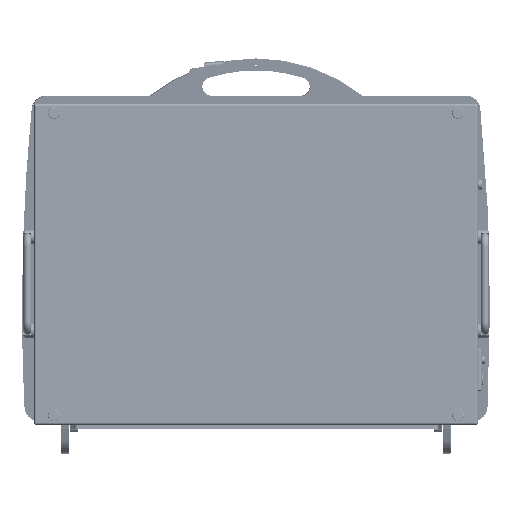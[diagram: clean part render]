
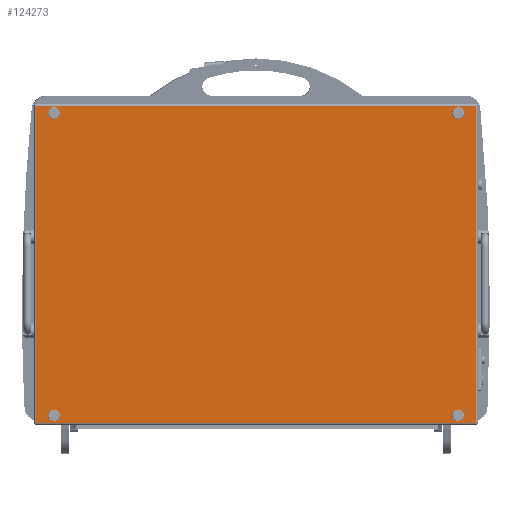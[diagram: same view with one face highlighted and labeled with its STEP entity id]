
A CAD part, front view. The second image highlights one B-rep face of the part: STEP entity #124273.
In plain terms, the highlighted planar face has unit normal (0, -1, 0).
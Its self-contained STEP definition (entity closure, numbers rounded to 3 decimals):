
#935 = EDGE_CURVE ( 'NONE', #166190, #113517, #93261, .T. ) ;
#3683 = CARTESIAN_POINT ( 'NONE',  ( 258., 0., 193. ) ) ;
#4519 = VECTOR ( 'NONE', #102255, 1000. ) ;
#5609 = DIRECTION ( 'NONE',  ( 0., -1., 0. ) ) ;
#6055 = FACE_OUTER_BOUND ( 'NONE', #108372, .T. ) ;
#6223 = DIRECTION ( 'NONE',  ( 0., -1., 0. ) ) ;
#8427 = AXIS2_PLACEMENT_3D ( 'NONE', #62803, #83822, #17658 ) ;
#8516 = LINE ( 'NONE', #51992, #110378 ) ;
#9313 = CARTESIAN_POINT ( 'NONE',  ( 283., 0., -202. ) ) ;
#10239 = FACE_BOUND ( 'NONE', #72814, .T. ) ;
#12534 = DIRECTION ( 'NONE',  ( 0., 0., 1. ) ) ;
#13189 = EDGE_LOOP ( 'NONE', ( #109390, #36816 ) ) ;
#15513 = VERTEX_POINT ( 'NONE', #54957 ) ;
#17658 = DIRECTION ( 'NONE',  ( 0., 0., -1. ) ) ;
#18623 = LINE ( 'NONE', #69015, #120470 ) ;
#19813 = CARTESIAN_POINT ( 'NONE',  ( -258., 0., -198.1 ) ) ;
#22093 = EDGE_CURVE ( 'NONE', #85048, #112947, #18623, .T. ) ;
#28248 = CARTESIAN_POINT ( 'NONE',  ( 258., 0., -193. ) ) ;
#28993 = VERTEX_POINT ( 'NONE', #131361 ) ;
#31338 = EDGE_LOOP ( 'NONE', ( #102181, #99248 ) ) ;
#35450 = ORIENTED_EDGE ( 'NONE', *, *, #136829, .F. ) ;
#36816 = ORIENTED_EDGE ( 'NONE', *, *, #51456, .F. ) ;
#37181 = DIRECTION ( 'NONE',  ( 0., 0., -1. ) ) ;
#37566 = DIRECTION ( 'NONE',  ( 0., -1., 0. ) ) ;
#38647 = CARTESIAN_POINT ( 'NONE',  ( 283., 0., 202. ) ) ;
#39827 = LINE ( 'NONE', #9313, #4519 ) ;
#40537 = VERTEX_POINT ( 'NONE', #81907 ) ;
#41364 = FACE_BOUND ( 'NONE', #31338, .T. ) ;
#41613 = DIRECTION ( 'NONE',  ( 0., 0., -1. ) ) ;
#42584 = ORIENTED_EDGE ( 'NONE', *, *, #56651, .F. ) ;
#43104 = CARTESIAN_POINT ( 'NONE',  ( -258., 0., 193. ) ) ;
#43661 = EDGE_CURVE ( 'NONE', #15513, #52342, #54225, .T. ) ;
#49384 = VERTEX_POINT ( 'NONE', #79385 ) ;
#49676 = ORIENTED_EDGE ( 'NONE', *, *, #132321, .F. ) ;
#51456 = EDGE_CURVE ( 'NONE', #28993, #145738, #130682, .T. ) ;
#51992 = CARTESIAN_POINT ( 'NONE',  ( 283., 0., 202. ) ) ;
#52342 = VERTEX_POINT ( 'NONE', #113492 ) ;
#54225 = CIRCLE ( 'NONE', #77631, 5.1 ) ;
#54957 = CARTESIAN_POINT ( 'NONE',  ( -258., 0., 198.1 ) ) ;
#56651 = EDGE_CURVE ( 'NONE', #52342, #15513, #114892, .T. ) ;
#59592 = ORIENTED_EDGE ( 'NONE', *, *, #43661, .F. ) ;
#62065 = DIRECTION ( 'NONE',  ( 0., -1., 0. ) ) ;
#62574 = AXIS2_PLACEMENT_3D ( 'NONE', #28248, #121242, #41613 ) ;
#62803 = CARTESIAN_POINT ( 'NONE',  ( -258., 0., -193. ) ) ;
#66027 = CIRCLE ( 'NONE', #62574, 5.1 ) ;
#69015 = CARTESIAN_POINT ( 'NONE',  ( -281., 0., 202. ) ) ;
#72260 = VECTOR ( 'NONE', #134341, 1000. ) ;
#72814 = EDGE_LOOP ( 'NONE', ( #35450, #89179 ) ) ;
#76406 = LINE ( 'NONE', #121532, #72260 ) ;
#76745 = FACE_BOUND ( 'NONE', #13189, .T. ) ;
#77404 = CARTESIAN_POINT ( 'NONE',  ( 258., 0., -193. ) ) ;
#77631 = AXIS2_PLACEMENT_3D ( 'NONE', #43104, #37566, #37181 ) ;
#78738 = PLANE ( 'NONE',  #131302 ) ;
#79385 = CARTESIAN_POINT ( 'NONE',  ( 258., 0., -198.1 ) ) ;
#81907 = CARTESIAN_POINT ( 'NONE',  ( 281., 0., -202. ) ) ;
#83400 = EDGE_CURVE ( 'NONE', #145738, #28993, #100784, .T. ) ;
#83822 = DIRECTION ( 'NONE',  ( 0., -1., 0. ) ) ;
#85048 = VERTEX_POINT ( 'NONE', #116460 ) ;
#85214 = CARTESIAN_POINT ( 'NONE',  ( -258., 0., -193. ) ) ;
#85827 = CARTESIAN_POINT ( 'NONE',  ( 258., 0., 193. ) ) ;
#85831 = AXIS2_PLACEMENT_3D ( 'NONE', #85214, #5609, #98562 ) ;
#87553 = ORIENTED_EDGE ( 'NONE', *, *, #22093, .T. ) ;
#88074 = AXIS2_PLACEMENT_3D ( 'NONE', #155055, #62065, #141709 ) ;
#89179 = ORIENTED_EDGE ( 'NONE', *, *, #107476, .F. ) ;
#90742 = DIRECTION ( 'NONE',  ( 0., 0., -1. ) ) ;
#92131 = DIRECTION ( 'NONE',  ( 0., 1., 0. ) ) ;
#93261 = CIRCLE ( 'NONE', #140481, 5.1 ) ;
#98562 = DIRECTION ( 'NONE',  ( 0., 0., -1. ) ) ;
#99024 = ORIENTED_EDGE ( 'NONE', *, *, #100180, .T. ) ;
#99181 = DIRECTION ( 'NONE',  ( 0., 0., -1. ) ) ;
#99248 = ORIENTED_EDGE ( 'NONE', *, *, #102469, .F. ) ;
#99615 = AXIS2_PLACEMENT_3D ( 'NONE', #77404, #170287, #90742 ) ;
#100180 = EDGE_CURVE ( 'NONE', #170942, #85048, #8516, .T. ) ;
#100784 = CIRCLE ( 'NONE', #85831, 5.1 ) ;
#102181 = ORIENTED_EDGE ( 'NONE', *, *, #935, .F. ) ;
#102255 = DIRECTION ( 'NONE',  ( -1., 0., 0. ) ) ;
#102469 = EDGE_CURVE ( 'NONE', #113517, #166190, #160324, .T. ) ;
#107476 = EDGE_CURVE ( 'NONE', #164716, #49384, #121744, .T. ) ;
#108372 = EDGE_LOOP ( 'NONE', ( #99024, #87553, #49676, #114394 ) ) ;
#109390 = ORIENTED_EDGE ( 'NONE', *, *, #83400, .F. ) ;
#110378 = VECTOR ( 'NONE', #118334, 1000. ) ;
#110802 = CARTESIAN_POINT ( 'NONE',  ( 258., 0., 198.1 ) ) ;
#112947 = VERTEX_POINT ( 'NONE', #126099 ) ;
#113492 = CARTESIAN_POINT ( 'NONE',  ( -258., 0., 187.9 ) ) ;
#113517 = VERTEX_POINT ( 'NONE', #110802 ) ;
#114394 = ORIENTED_EDGE ( 'NONE', *, *, #168864, .T. ) ;
#114817 = EDGE_LOOP ( 'NONE', ( #42584, #59592 ) ) ;
#114892 = CIRCLE ( 'NONE', #88074, 5.1 ) ;
#116460 = CARTESIAN_POINT ( 'NONE',  ( -281., 0., 202. ) ) ;
#118214 = DIRECTION ( 'NONE',  ( 0., 0., -1. ) ) ;
#118334 = DIRECTION ( 'NONE',  ( -1., 0., 0. ) ) ;
#120470 = VECTOR ( 'NONE', #135261, 1000. ) ;
#121242 = DIRECTION ( 'NONE',  ( 0., -1., 0. ) ) ;
#121532 = CARTESIAN_POINT ( 'NONE',  ( 281., 0., 202. ) ) ;
#121744 = CIRCLE ( 'NONE', #99615, 5.1 ) ;
#124273 = ADVANCED_FACE ( 'NONE', ( #10239, #76745, #147445, #41364, #6055 ), #78738, .F. ) ;
#126099 = CARTESIAN_POINT ( 'NONE',  ( -281., 0., -202. ) ) ;
#126876 = AXIS2_PLACEMENT_3D ( 'NONE', #85827, #6223, #99181 ) ;
#130041 = CARTESIAN_POINT ( 'NONE',  ( 258., 0., -187.9 ) ) ;
#130682 = CIRCLE ( 'NONE', #8427, 5.1 ) ;
#131302 = AXIS2_PLACEMENT_3D ( 'NONE', #38647, #92131, #12534 ) ;
#131361 = CARTESIAN_POINT ( 'NONE',  ( -258., 0., -187.9 ) ) ;
#132321 = EDGE_CURVE ( 'NONE', #40537, #112947, #39827, .T. ) ;
#133820 = CARTESIAN_POINT ( 'NONE',  ( 258., 0., 187.9 ) ) ;
#134341 = DIRECTION ( 'NONE',  ( 0., 0., 1. ) ) ;
#135261 = DIRECTION ( 'NONE',  ( 0., 0., -1. ) ) ;
#136829 = EDGE_CURVE ( 'NONE', #49384, #164716, #66027, .T. ) ;
#140481 = AXIS2_PLACEMENT_3D ( 'NONE', #3683, #147824, #118214 ) ;
#141709 = DIRECTION ( 'NONE',  ( 0., 0., -1. ) ) ;
#141714 = CARTESIAN_POINT ( 'NONE',  ( 281., 0., 202. ) ) ;
#145738 = VERTEX_POINT ( 'NONE', #19813 ) ;
#147445 = FACE_BOUND ( 'NONE', #114817, .T. ) ;
#147824 = DIRECTION ( 'NONE',  ( 0., -1., 0. ) ) ;
#155055 = CARTESIAN_POINT ( 'NONE',  ( -258., 0., 193. ) ) ;
#160324 = CIRCLE ( 'NONE', #126876, 5.1 ) ;
#164716 = VERTEX_POINT ( 'NONE', #130041 ) ;
#166190 = VERTEX_POINT ( 'NONE', #133820 ) ;
#168864 = EDGE_CURVE ( 'NONE', #40537, #170942, #76406, .T. ) ;
#170287 = DIRECTION ( 'NONE',  ( 0., -1., 0. ) ) ;
#170942 = VERTEX_POINT ( 'NONE', #141714 ) ;
